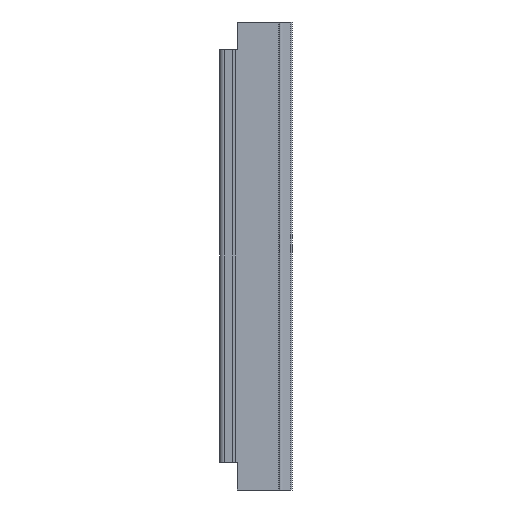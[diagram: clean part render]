
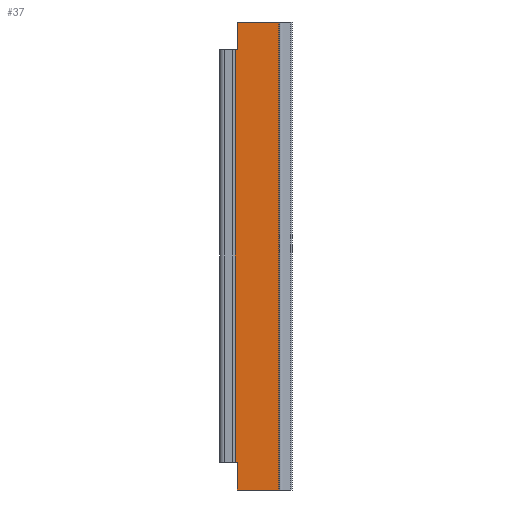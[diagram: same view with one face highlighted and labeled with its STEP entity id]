
A CAD part, left-side view. The second image highlights one B-rep face of the part: STEP entity #37.
In plain terms, the highlighted planar face has unit normal (-1, 0, 0).
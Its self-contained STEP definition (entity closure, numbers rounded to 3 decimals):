
#37 = ADVANCED_FACE ( 'NONE', ( #540 ), #285, .F. ) ;
#63 = EDGE_CURVE ( 'NONE', #966, #972, #1192, .T. ) ;
#83 = EDGE_CURVE ( 'NONE', #947, #960, #1171, .T. ) ;
#85 = EDGE_CURVE ( 'NONE', #946, #947, #1310, .T. ) ;
#99 = EDGE_CURVE ( 'NONE', #959, #946, #569, .T. ) ;
#111 = EDGE_CURVE ( 'NONE', #972, #970, #587, .T. ) ;
#114 = EDGE_CURVE ( 'NONE', #960, #966, #594, .T. ) ;
#116 = EDGE_CURVE ( 'NONE', #973, #970, #598, .T. ) ;
#142 = EDGE_CURVE ( 'NONE', #973, #959, #649, .T. ) ;
#285 = PLANE ( 'NONE',  #488 ) ;
#288 = CARTESIAN_POINT ( 'NONE',  ( -2.8, -14.555, 618. ) ) ;
#294 = DIRECTION ( 'NONE',  ( 1., 0., 0. ) ) ;
#295 = DIRECTION ( 'NONE',  ( 0., 1., 0. ) ) ;
#361 = CARTESIAN_POINT ( 'NONE',  ( -2.8, -14.555, 0. ) ) ;
#362 = DIRECTION ( 'NONE',  ( 0., -1., 0. ) ) ;
#400 = CARTESIAN_POINT ( 'NONE',  ( -2.8, -14.555, 36.5 ) ) ;
#401 = CARTESIAN_POINT ( 'NONE',  ( -2.8, -14.928, 618. ) ) ;
#404 = DIRECTION ( 'NONE',  ( 0., -1., 0. ) ) ;
#408 = DIRECTION ( 'NONE',  ( 0., 0., -1. ) ) ;
#427 = CARTESIAN_POINT ( 'NONE',  ( -2.8, -14.555, 581.5 ) ) ;
#440 = DIRECTION ( 'NONE',  ( 0., 1., 0. ) ) ;
#452 = CARTESIAN_POINT ( 'NONE',  ( -2.8, -72.063, 618. ) ) ;
#464 = DIRECTION ( 'NONE',  ( 0., 0., 1. ) ) ;
#465 = CARTESIAN_POINT ( 'NONE',  ( -2.8, -14.555, 618. ) ) ;
#471 = CARTESIAN_POINT ( 'NONE',  ( -2.8, -17.7, 618. ) ) ;
#472 = DIRECTION ( 'NONE',  ( 0., 0., -1. ) ) ;
#476 = DIRECTION ( 'NONE',  ( 0., -1., 0. ) ) ;
#488 = AXIS2_PLACEMENT_3D ( 'NONE', #288, #294, #295 ) ;
#540 = FACE_OUTER_BOUND ( 'NONE', #1243, .T. ) ;
#569 = LINE ( 'NONE', #427, #571 ) ;
#571 = VECTOR ( 'NONE', #440, 1000. ) ;
#586 = VECTOR ( 'NONE', #472, 1000. ) ;
#587 = LINE ( 'NONE', #452, #593 ) ;
#593 = VECTOR ( 'NONE', #464, 1000. ) ;
#594 = LINE ( 'NONE', #471, #586 ) ;
#598 = LINE ( 'NONE', #465, #602 ) ;
#602 = VECTOR ( 'NONE', #476, 1000. ) ;
#649 = LINE ( 'NONE', #733, #650 ) ;
#650 = VECTOR ( 'NONE', #734, 1000. ) ;
#733 = CARTESIAN_POINT ( 'NONE',  ( -2.8, -17.7, 618. ) ) ;
#734 = DIRECTION ( 'NONE',  ( 0., 0., -1. ) ) ;
#799 = CARTESIAN_POINT ( 'NONE',  ( -2.8, -14.928, 581.5 ) ) ;
#800 = CARTESIAN_POINT ( 'NONE',  ( -2.8, -14.928, 36.5 ) ) ;
#812 = CARTESIAN_POINT ( 'NONE',  ( -2.8, -17.7, 581.5 ) ) ;
#813 = CARTESIAN_POINT ( 'NONE',  ( -2.8, -17.7, 36.5 ) ) ;
#815 = CARTESIAN_POINT ( 'NONE',  ( -2.8, -17.7, 0. ) ) ;
#819 = CARTESIAN_POINT ( 'NONE',  ( -2.8, -72.063, 618. ) ) ;
#821 = CARTESIAN_POINT ( 'NONE',  ( -2.8, -72.063, 0. ) ) ;
#822 = CARTESIAN_POINT ( 'NONE',  ( -2.8, -17.7, 618. ) ) ;
#946 = VERTEX_POINT ( 'NONE', #799 ) ;
#947 = VERTEX_POINT ( 'NONE', #800 ) ;
#959 = VERTEX_POINT ( 'NONE', #812 ) ;
#960 = VERTEX_POINT ( 'NONE', #813 ) ;
#966 = VERTEX_POINT ( 'NONE', #815 ) ;
#970 = VERTEX_POINT ( 'NONE', #819 ) ;
#972 = VERTEX_POINT ( 'NONE', #821 ) ;
#973 = VERTEX_POINT ( 'NONE', #822 ) ;
#1024 = VECTOR ( 'NONE', #362, 1000. ) ;
#1099 = ORIENTED_EDGE ( 'NONE', *, *, #116, .F. ) ;
#1100 = ORIENTED_EDGE ( 'NONE', *, *, #111, .T. ) ;
#1101 = ORIENTED_EDGE ( 'NONE', *, *, #63, .T. ) ;
#1102 = ORIENTED_EDGE ( 'NONE', *, *, #114, .T. ) ;
#1103 = ORIENTED_EDGE ( 'NONE', *, *, #83, .T. ) ;
#1104 = ORIENTED_EDGE ( 'NONE', *, *, #85, .T. ) ;
#1105 = ORIENTED_EDGE ( 'NONE', *, *, #99, .T. ) ;
#1106 = ORIENTED_EDGE ( 'NONE', *, *, #142, .T. ) ;
#1165 = VECTOR ( 'NONE', #404, 1000. ) ;
#1171 = LINE ( 'NONE', #400, #1165 ) ;
#1192 = LINE ( 'NONE', #361, #1024 ) ;
#1243 = EDGE_LOOP ( 'NONE', ( #1106, #1105, #1104, #1103, #1102, #1101, #1100, #1099 ) ) ;
#1310 = LINE ( 'NONE', #401, #1311 ) ;
#1311 = VECTOR ( 'NONE', #408, 1000. ) ;
